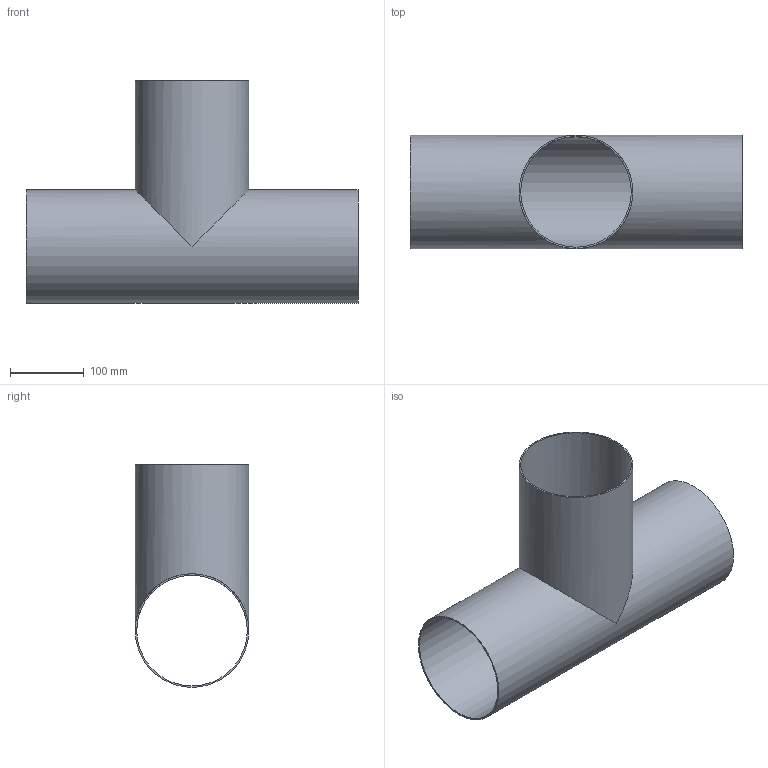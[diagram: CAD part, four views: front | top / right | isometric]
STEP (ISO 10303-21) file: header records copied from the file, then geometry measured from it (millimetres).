
FILE_DESCRIPTION(('FreeCAD Model'),'2;1');
FILE_NAME( '/home/martin/Documents/proyect/accesorios/stp/te_long_DN-150.step', '2018-01-07T08:11:53',('Author'),(''), 'Open CASCADE STEP processor 6.8','FreeCAD','Unknown');
FILE_SCHEMA(('AUTOMOTIVE_DESIGN_CC2 { 1 2 10303 214 -1 1 5 4 }'));
Length unit declared in the file: millimetre
Products named in the file (1): te_long_DN-150
Bounding box: 450 x 154 x 302 mm (x, y, z)
Volume: 552233.5 mm3; surface area: 555087.9 mm2
Topology: 1 solids, 1 shells, 7 faces, 16 edges, 12 vertices
Faces by surface type: cylinder 4, plane 3
Full cylindrical faces by diameter (mm): 150 x2, 154 x2
Entity records: 539 total; most frequent: CARTESIAN_POINT 180, DIRECTION 64, ORIENTED_EDGE 32, PCURVE 32, DEFINITIONAL_REPRESENTATION 32, AXIS2_PLACEMENT_3D 20, LINE 18, VECTOR 18
